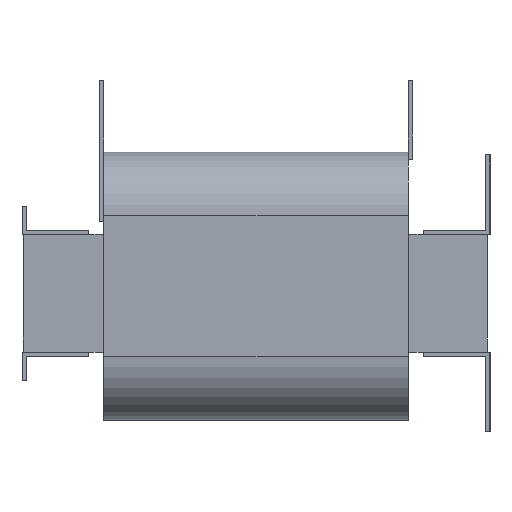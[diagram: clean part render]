
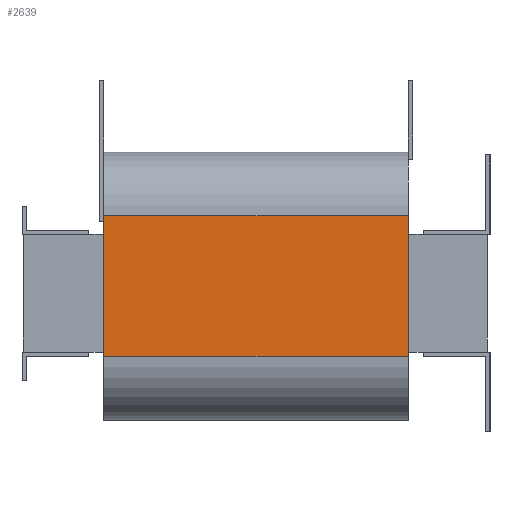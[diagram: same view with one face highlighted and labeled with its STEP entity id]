
A CAD part, left-side view. The second image highlights one B-rep face of the part: STEP entity #2639.
In plain terms, the highlighted planar face has unit normal (-1, 0, 0).
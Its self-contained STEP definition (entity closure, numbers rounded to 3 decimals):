
#114=PLANE('',#2843);
#243=FACE_OUTER_BOUND('',#393,.T.);
#393=EDGE_LOOP('',(#2263,#2264,#2265,#2266));
#670=LINE('',#4142,#996);
#689=LINE('',#4192,#1015);
#690=LINE('',#4195,#1016);
#691=LINE('',#4196,#1017);
#996=VECTOR('',#3383,10.);
#1015=VECTOR('',#3428,10.);
#1016=VECTOR('',#3431,10.);
#1017=VECTOR('',#3432,10.);
#1325=VERTEX_POINT('',#4139);
#1326=VERTEX_POINT('',#4141);
#1344=VERTEX_POINT('',#4190);
#1345=VERTEX_POINT('',#4194);
#1652=EDGE_CURVE('',#1325,#1326,#670,.T.);
#1678=EDGE_CURVE('',#1344,#1325,#689,.T.);
#1679=EDGE_CURVE('',#1344,#1345,#690,.T.);
#1680=EDGE_CURVE('',#1326,#1345,#691,.T.);
#2263=ORIENTED_EDGE('',*,*,#1678,.F.);
#2264=ORIENTED_EDGE('',*,*,#1679,.T.);
#2265=ORIENTED_EDGE('',*,*,#1680,.F.);
#2266=ORIENTED_EDGE('',*,*,#1652,.F.);
#2639=ADVANCED_FACE('',(#243),#114,.T.);
#2843=AXIS2_PLACEMENT_3D('',#4193,#3429,#3430);
#3383=DIRECTION('',(0.,0.,1.));
#3428=DIRECTION('',(0.,1.,0.));
#3429=DIRECTION('center_axis',(-1.,0.,0.));
#3430=DIRECTION('ref_axis',(0.,0.,1.));
#3431=DIRECTION('',(0.,0.,1.));
#3432=DIRECTION('',(0.,-1.,0.));
#4139=CARTESIAN_POINT('',(-243.,272.5,-44.5));
#4141=CARTESIAN_POINT('',(-243.,272.5,54.5));
#4142=CARTESIAN_POINT('',(-243.,272.5,-89.5));
#4190=CARTESIAN_POINT('',(-243.,57.5,-44.5));
#4192=CARTESIAN_POINT('',(-243.,57.5,-44.5));
#4193=CARTESIAN_POINT('Origin',(-243.,57.5,-89.5));
#4194=CARTESIAN_POINT('',(-243.,57.5,54.5));
#4195=CARTESIAN_POINT('',(-243.,57.5,-89.5));
#4196=CARTESIAN_POINT('',(-243.,57.5,54.5));
